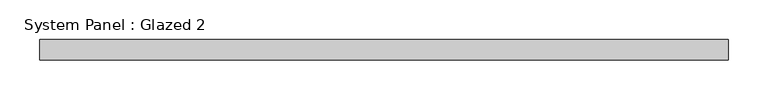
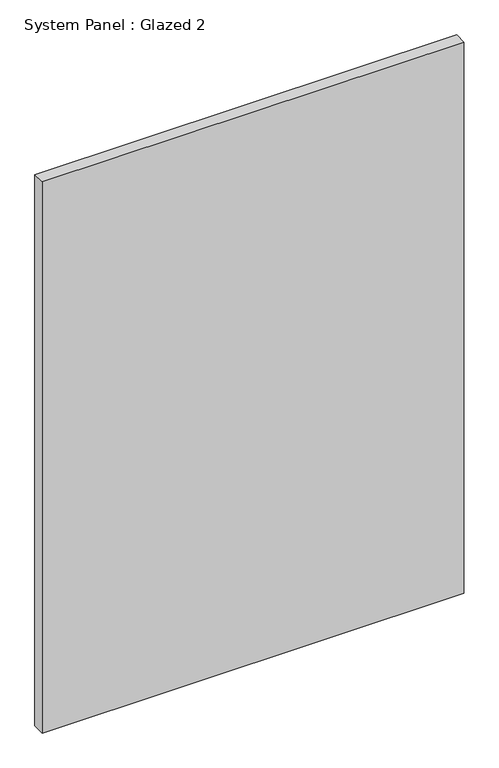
"""IFC4 building model written with IfcOpenShell, lengths in millimetres: plate geometry, System Panel : Glazed 2."""

from ifc_helpers import new_model, si_unit, origin, origin_with_axes, place, context, project, spatial, polyline, outline, extrude, source, transform, mapped, element, save


def system_panel_glazed_2_34770d0f(model_context):
    return source(origin(), model_context, "Body", "SweptSolid", [
        extrude(outline(polyline([(431.8, -44.45), (-431.8, -44.45), (-431.8, -19.05), (431.8, -19.05), (431.8, -44.45)])), origin_with_axes(), (0.0, 0.0, 1.0), 1193.8),
    ])


if __name__ == "__main__":
    model = new_model("IFC4")
    model_context = context("Model", 3, world=origin())
    ifc_project = project(units=[si_unit("LENGTHUNIT", "METRE", prefix="MILLI")], contexts=[model_context])
    site = spatial("IfcSite", under=ifc_project)
    building = spatial("IfcBuilding", under=site)
    placement = place(None, origin())
    system_panel_glazed_2_shape = system_panel_glazed_2_34770d0f(model_context)
    element("IfcPlate", 1, ObjectType="System Panel : Glazed 2", at=placement, inside=building, context=model_context, shape_type="MappedRepresentation", body=[
        mapped(system_panel_glazed_2_shape, transform((0.0, 0.0, 0.0), x_axis=(1.0, 0.0, 0.0), y_axis=(0.0, 1.0, 0.0), z_axis=(0.0, 0.0, 1.0))),
    ])
    save(model, "model.ifc")
